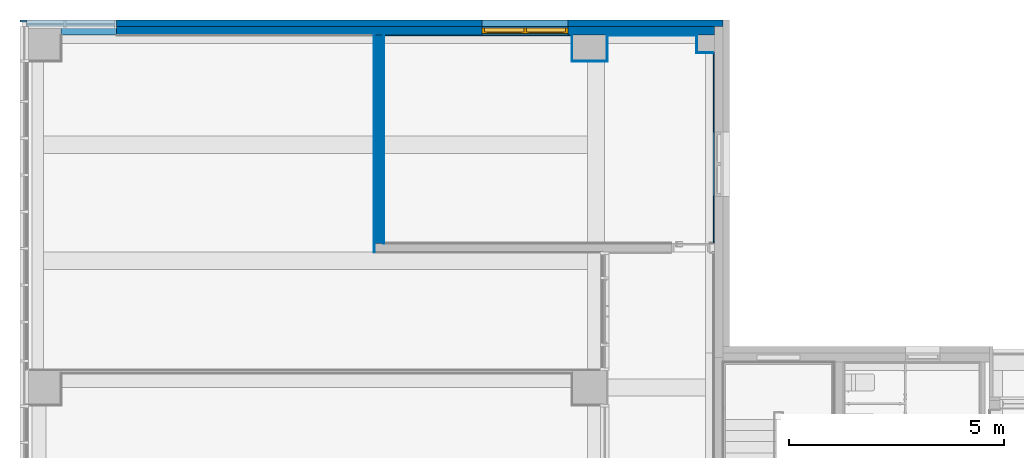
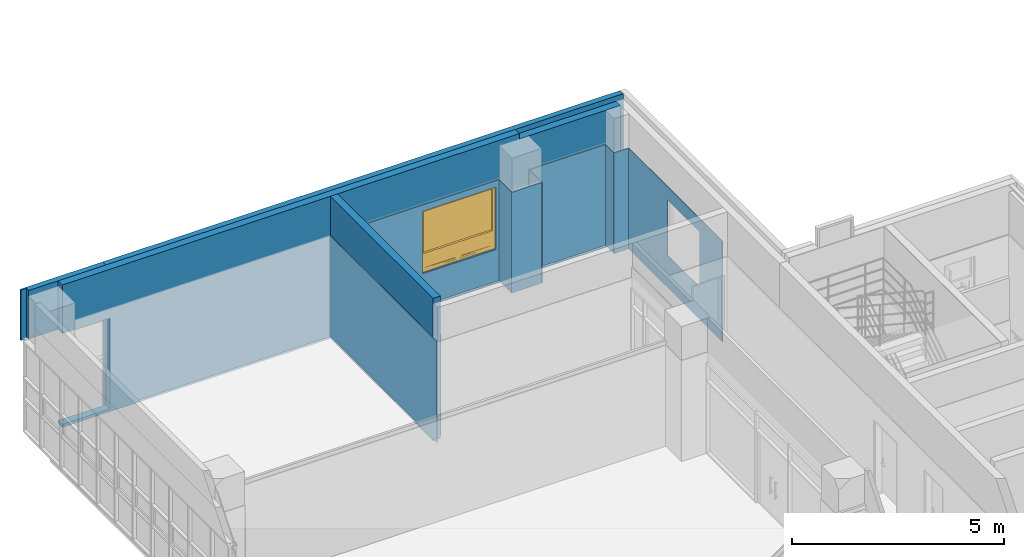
# One storey, part 59 of 76: 15 walls, 1 window, 8 openings.
"""IFC2X3 building model written with IfcOpenShell, lengths in millimetres."""

import ifcopenshell
import ifcopenshell.guid

model = None  # the IFC model being written
_history = None  # IfcOwnerHistory: only IFC2X3 demands one
_inside = {}  # id of a spatial element -> (the spatial element, [elements in it])
_under = {}  # id of a project, library or spatial element -> (it, [spatial elements below it])
_declared = {}  # id of a project -> (the project, [libraries it declares])
_typed = {}  # id of a type object -> (the type object, [elements of that type])
_made_of = {}  # id of a material, layer set ... -> (it, [elements and type objects made of it])


def new_model(schema):
    """Start an empty IFC model of exactly this schema.

    Asked for "IFC4X3", IfcOpenShell would pick the latest addendum, in which some entities
    have other attributes; the version numbers below select the first issue.
    IFC2X3 requires an IfcOwnerHistory on every rooted entity: one is made here for all.
    """
    global model, _history
    if schema == "IFC4X3":
        model = ifcopenshell.file(schema_version=(4, 3, 0, 0))
    else:
        model = ifcopenshell.file(schema=schema)
    _inside.clear()
    _under.clear()
    _declared.clear()
    _typed.clear()
    _made_of.clear()
    _history = None
    if model.schema == "IFC2X3":
        org = make("IfcOrganization", Name="unknown")
        user = make(
            "IfcPersonAndOrganization",
            ThePerson=make("IfcPerson", FamilyName="unknown"),
            TheOrganization=org,
        )
        app = make(
            "IfcApplication",
            ApplicationDeveloper=org,
            Version="unknown",
            ApplicationFullName="unknown",
            ApplicationIdentifier="unknown",
        )
        _history = make(
            "IfcOwnerHistory",
            OwningUser=user,
            OwningApplication=app,
            ChangeAction="ADDED",
            CreationDate=0,
        )
    return model


def make(cls, **values):
    """One entity of the class cls with the attributes given. An attribute that is None is left unset."""
    return model.create_entity(
        cls, **{name: value for name, value in values.items() if value is not None}
    )


def entity(cls, *values):
    """Any entity or typed value of the class cls, its attributes in the order of the schema. None: left unset."""
    e = model.create_entity(cls)
    for i, value in enumerate(values):
        if value is not None:
            e[i] = value
    return e


def rooted(cls, **values):
    """An entity with a GlobalId (a new one), such as an element, a storey or a relation."""
    return make(cls, GlobalId=ifcopenshell.guid.new(), OwnerHistory=_history, **values)


def si_unit(unit_type, name, prefix=None):
    """IfcSIUnit, for example si_unit("LENGTHUNIT", "METRE", prefix="MILLI")."""
    return make("IfcSIUnit", UnitType=unit_type, Prefix=prefix, Name=name)


def converted_unit(unit_type, name, factor, base, dimensions=None, offset=None):
    """IfcConversionBasedUnit, such as the inch: factor (a typed value) times the base unit."""
    return make(
        "IfcConversionBasedUnit"
        if offset is None
        else "IfcConversionBasedUnitWithOffset",
        ConversionOffset=offset,
        Dimensions=None
        if dimensions is None
        else entity("IfcDimensionalExponents", *dimensions),
        UnitType=unit_type,
        Name=name,
        ConversionFactor=make(
            "IfcMeasureWithUnit", ValueComponent=factor, UnitComponent=base
        ),
    )


def derived_unit(unit_type, elements):
    """IfcDerivedUnit: a product of units, each with its exponent."""
    return make(
        "IfcDerivedUnit",
        Elements=[
            make("IfcDerivedUnitElement", Unit=unit, Exponent=power)
            for unit, power in elements
        ],
        UnitType=unit_type,
    )


def assignment(units):
    """IfcUnitAssignment: the units of a project."""
    return None if units is None else make("IfcUnitAssignment", Units=units)


def point(xyz):
    """IfcCartesianPoint."""
    return None if xyz is None else make("IfcCartesianPoint", Coordinates=xyz)


def direction(xyz):
    """IfcDirection."""
    return None if xyz is None else make("IfcDirection", DirectionRatios=xyz)


def frame(location, z_axis=None, x_axis=None):
    """IfcAxis2Placement3D, a coordinate frame: its origin and axes. An axis left out is left unset."""
    return make(
        "IfcAxis2Placement3D",
        Location=point(location),
        Axis=direction(z_axis),
        RefDirection=direction(x_axis),
    )


def frame_2d(location, x_axis=None):
    """IfcAxis2Placement2D, a coordinate frame in the plane: its origin and x axis."""
    return make(
        "IfcAxis2Placement2D", Location=point(location), RefDirection=direction(x_axis)
    )


def origin():
    """The frame at (0, 0, 0) with its axes left unset."""
    return frame((0.0, 0.0, 0.0))


def place(relative_to, where):
    """IfcLocalPlacement: puts the frame where relative to a parent placement (None: the world)."""
    return make(
        "IfcLocalPlacement", PlacementRelTo=relative_to, RelativePlacement=where
    )


def context(
    kind, dimensions, precision=None, world=None, true_north=None, identifier=None
):
    """IfcGeometricRepresentationContext, for example the 3D "Model" context."""
    return make(
        "IfcGeometricRepresentationContext",
        ContextIdentifier=identifier,
        ContextType=kind,
        CoordinateSpaceDimension=dimensions,
        Precision=precision,
        WorldCoordinateSystem=world,
        TrueNorth=true_north,
    )


def subcontext(parent, identifier, kind, view, scale=None):
    """IfcGeometricRepresentationSubContext, for example "Body" below "Model"."""
    return make(
        "IfcGeometricRepresentationSubContext",
        ContextIdentifier=identifier,
        ContextType=kind,
        ParentContext=parent,
        TargetScale=scale,
        TargetView=view,
    )


def project(units=None, contexts=None):
    """IfcProject with its units and contexts."""
    return rooted(
        "IfcProject",
        Name="project",
        RepresentationContexts=contexts,
        UnitsInContext=assignment(units),
    )


def spatial(cls, under=None, at=None, **own):
    """A site, building, storey or space (cls), placed at a placement, below another one or the project."""
    s = rooted(cls, ObjectPlacement=at, **own)
    if under is not None:
        _under.setdefault(under.id(), (under, []))[1].append(s)
    return s


def polyline(points):
    """IfcPolyline through the points."""
    return make("IfcPolyline", Points=[point(p) for p in points])


def profile(cls, at=None, kind="AREA", **sizes):
    """A parametric profile (cls). Its sizes go by their IFC names, for example OverallWidth=200.0."""
    return make(cls, ProfileType=kind, Position=at, **sizes)


def rectangle(**sizes):
    """IfcRectangleProfileDef."""
    return profile("IfcRectangleProfileDef", **sizes)


def extrude(swept, where, along, depth):
    """IfcExtrudedAreaSolid: the profile swept, set in the frame where, extruded along a direction by depth."""
    return make(
        "IfcExtrudedAreaSolid",
        SweptArea=swept,
        Position=where,
        ExtrudedDirection=direction(along),
        Depth=depth,
    )


def clip(a, b, op="DIFFERENCE"):
    """IfcBooleanClippingResult: the solid a cut by the half space b."""
    return make(
        "IfcBooleanClippingResult", Operator=op, FirstOperand=a, SecondOperand=b
    )


def bounded_halfspace(plane, agree, where, boundary):
    """IfcPolygonalBoundedHalfSpace: a half space limited to a polygon's prism."""
    return make(
        "IfcPolygonalBoundedHalfSpace",
        BaseSurface=make("IfcPlane", Position=plane),
        AgreementFlag=agree,
        Position=where,
        PolygonalBoundary=boundary,
    )


def faces_of(points, faces, orient=None, outer=None):
    """IfcFace entities. A face is a list of loops; a loop is a list of indices into points, from 0.

    orient and outer hold one flag for each loop. By default every Orientation is true, the
    first loop of a face is its IfcFaceOuterBound and the others are IfcFaceBound.
    """
    made = []
    for i, loops in enumerate(faces):
        bounds = []
        for j, loop in enumerate(loops):
            is_outer = j == 0 if outer is None else outer[i][j]
            bounds.append(
                make(
                    "IfcFaceOuterBound" if is_outer else "IfcFaceBound",
                    Bound=make("IfcPolyLoop", Polygon=[points[k] for k in loop]),
                    Orientation=True if orient is None else orient[i][j],
                )
            )
        made.append(make("IfcFace", Bounds=bounds))
    return made


def faceted_brep(points, faces, orient=None, outer=None, voids=None):
    """IfcFacetedBrep: a solid bounded by flat faces; with voids (closed shells), ...WithVoids."""
    shared = [point(p) for p in points]
    hull = make("IfcClosedShell", CfsFaces=faces_of(shared, faces, orient, outer))
    if voids is None:
        return make("IfcFacetedBrep", Outer=hull)
    return make(
        "IfcFacetedBrepWithVoids",
        Outer=hull,
        Voids=[
            make(cls, CfsFaces=faces_of(shared, fs, o, b)) for cls, fs, o, b in voids
        ],
    )


def shape(context_of_items, identifier, shape_type, items):
    """IfcShapeRepresentation: the items that make up one representation, for example the "Body"."""
    return make(
        "IfcShapeRepresentation",
        ContextOfItems=context_of_items,
        RepresentationIdentifier=identifier,
        RepresentationType=shape_type,
        Items=items,
    )


def source(mapping_origin, context_of_items, identifier, shape_type, items):
    """IfcRepresentationMap: a shape defined once, which mapped items show again and again."""
    return make(
        "IfcRepresentationMap",
        MappingOrigin=mapping_origin,
        MappedRepresentation=shape(context_of_items, identifier, shape_type, items),
    )


def transform(
    local_origin,
    x_axis=None,
    y_axis=None,
    z_axis=None,
    scale=None,
    scale2=None,
    scale3=None,
    uniform=True,
):
    """IfcCartesianTransformationOperator3D, or its non-uniform kind. x_axis, y_axis, z_axis: its Axis1, 2, 3."""
    if uniform:
        return make(
            "IfcCartesianTransformationOperator3D",
            Axis1=direction(x_axis),
            Axis2=direction(y_axis),
            LocalOrigin=point(local_origin),
            Scale=scale,
            Axis3=direction(z_axis),
        )
    return make(
        "IfcCartesianTransformationOperator3DnonUniform",
        Axis1=direction(x_axis),
        Axis2=direction(y_axis),
        LocalOrigin=point(local_origin),
        Scale=scale,
        Axis3=direction(z_axis),
        Scale2=scale2,
        Scale3=scale3,
    )


def mapped(mapping_source, mapping_target):
    """IfcMappedItem: shows the shape of a source again, moved by a transform."""
    return make(
        "IfcMappedItem", MappingSource=mapping_source, MappingTarget=mapping_target
    )


def material(Name=None, Category=None):
    """IfcMaterial."""
    return make("IfcMaterial", Name=Name, Category=Category)


def material_list(materials):
    """IfcMaterialList."""
    return make("IfcMaterialList", Materials=materials)


def layer(
    of_material, thickness, ventilated=None, Name=None, Category=None, Priority=None
):
    """IfcMaterialLayer: one layer of a wall or slab, of a material (None: an air gap)."""
    return make(
        "IfcMaterialLayer",
        Material=of_material,
        LayerThickness=thickness,
        IsVentilated=ventilated,
        Name=Name,
        Category=Category,
        Priority=Priority,
    )


def layer_set(layers, Name=None):
    """IfcMaterialLayerSet."""
    return make("IfcMaterialLayerSet", MaterialLayers=layers, LayerSetName=Name)


def layer_usage(for_layer_set, set_direction, sense, offset, extent=None):
    """IfcMaterialLayerSetUsage: how a layer set lies in its element."""
    return make(
        "IfcMaterialLayerSetUsage",
        ForLayerSet=for_layer_set,
        LayerSetDirection=set_direction,
        DirectionSense=sense,
        OffsetFromReferenceLine=offset,
        ReferenceExtent=extent,
    )


def made_of(thing, what):
    """Note that an element or type object is made of a material, layer set ...; save() writes the relation."""
    if what is not None:
        _made_of.setdefault(what.id(), (what, []))[1].append(thing)
    return thing


def type_object(cls, material=None, **own):
    """A type object (cls), such as IfcWallType, which elements share."""
    return made_of(rooted(cls, **own), material)


def type_shapes(of_type, sources):
    """Give a type object the sources (RepresentationMaps) that its elements show as mapped items."""
    of_type.RepresentationMaps = sources


def element(
    cls,
    number,
    at=None,
    inside=None,
    cuts=None,
    type_object=None,
    material=None,
    context=None,
    identifier="Body",
    shape_type=None,
    held_by="IfcProductDefinitionShape",
    body=None,
    shapes=None,
    **own,
):
    """One element of the class cls, such as IfcWall. Its Tag is "e" and its number.

    at: its placement. inside: the storey or other place that contains it. cuts: it is an
    opening in that element (IfcRelVoidsElement). A single representation is given by context,
    identifier, shape_type and body (its items); several are given by shapes. held_by: the class
    of the entity that holds the representations. save() writes the other relations.
    """
    e = rooted(cls, Tag="e%d" % number, ObjectPlacement=at, **own)
    if body is not None:
        shapes = [shape(context, identifier, shape_type, body)]
    if shapes is not None:
        e.Representation = make(held_by, Representations=shapes)
    if inside is not None:
        _inside.setdefault(inside.id(), (inside, []))[1].append(e)
    if cuts is not None:
        rooted(
            "IfcRelVoidsElement", RelatingBuildingElement=cuts, RelatedOpeningElement=e
        )
    if type_object is not None:
        _typed.setdefault(type_object.id(), (type_object, []))[1].append(e)
    return made_of(e, material)


def fill(opening, filler):
    """IfcRelFillsElement: the door or window that sits in an opening."""
    return rooted(
        "IfcRelFillsElement",
        RelatingOpeningElement=opening,
        RelatedBuildingElement=filler,
    )


def aggregate(whole, parts):
    """IfcRelAggregates: a whole, such as a stair, and the parts it consists of."""
    return rooted("IfcRelAggregates", RelatingObject=whole, RelatedObjects=parts)


def save(model, path):
    """Write the relations noted so far, then the file.

    IfcRelAggregates (storeys below a building ...), IfcRelContainedInSpatialStructure (elements
    in a storey), IfcRelDefinesByType, IfcRelAssociatesMaterial and IfcRelDeclares: one each for
    every whole, place, type object, material and project.
    """
    for whole, parts in _under.values():
        aggregate(whole, parts)
    for where, things in _inside.values():
        rooted(
            "IfcRelContainedInSpatialStructure",
            RelatedElements=things,
            RelatingStructure=where,
        )
    for kind, things in _typed.values():
        rooted("IfcRelDefinesByType", RelatedObjects=things, RelatingType=kind)
    for what, things in _made_of.values():
        rooted("IfcRelAssociatesMaterial", RelatedObjects=things, RelatingMaterial=what)
    for by, libraries in _declared.values():
        rooted("IfcRelDeclares", RelatingContext=by, RelatedDefinitions=libraries)
    model.write(path)


model = new_model("IFC2X3")

# Units and contexts
model_context = context("Model", 3, precision=0.01, world=origin(), true_north=direction((6.123031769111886e-17, 1.0)))
body_context = subcontext(model_context, "Body", "Model", "MODEL_VIEW")
ifc_project = project(units=[si_unit("LENGTHUNIT", "METRE", prefix="MILLI"), si_unit("AREAUNIT", "SQUARE_METRE"), si_unit("VOLUMEUNIT", "CUBIC_METRE"), converted_unit("PLANEANGLEUNIT", "DEGREE", entity("IfcRatioMeasure", 0.017453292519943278), si_unit("PLANEANGLEUNIT", "RADIAN"), dimensions=[0, 0, 0, 0, 0, 0, 0]), si_unit("MASSUNIT", "GRAM", prefix="KILO"), derived_unit("MASSDENSITYUNIT", [(si_unit("MASSUNIT", "GRAM", prefix="KILO"), 1), (si_unit("LENGTHUNIT", "METRE"), -3)]), derived_unit("MOMENTOFINERTIAUNIT", [(si_unit("LENGTHUNIT", "METRE"), 4)]), si_unit("TIMEUNIT", "SECOND"), si_unit("FREQUENCYUNIT", "HERTZ"), si_unit("THERMODYNAMICTEMPERATUREUNIT", "DEGREE_CELSIUS"), derived_unit("THERMALTRANSMITTANCEUNIT", [(si_unit("MASSUNIT", "GRAM", prefix="KILO"), 1), (si_unit("THERMODYNAMICTEMPERATUREUNIT", "KELVIN"), -1), (si_unit("TIMEUNIT", "SECOND"), -3)]), derived_unit("VOLUMETRICFLOWRATEUNIT", [(si_unit("LENGTHUNIT", "METRE"), 3), (si_unit("TIMEUNIT", "SECOND"), -1)]), derived_unit("MASSFLOWRATEUNIT", [(si_unit("MASSUNIT", "GRAM", prefix="KILO"), 1), (si_unit("TIMEUNIT", "SECOND"), -1)]), derived_unit("ROTATIONALFREQUENCYUNIT", [(si_unit("TIMEUNIT", "SECOND"), -1)]), si_unit("ELECTRICCURRENTUNIT", "AMPERE"), si_unit("ELECTRICVOLTAGEUNIT", "VOLT"), si_unit("POWERUNIT", "WATT"), si_unit("FORCEUNIT", "NEWTON", prefix="KILO"), si_unit("ILLUMINANCEUNIT", "LUX"), si_unit("LUMINOUSFLUXUNIT", "LUMEN"), si_unit("LUMINOUSINTENSITYUNIT", "CANDELA"), derived_unit("USERDEFINED", [(si_unit("MASSUNIT", "GRAM", prefix="KILO"), -1), (si_unit("LENGTHUNIT", "METRE"), -2), (si_unit("TIMEUNIT", "SECOND"), 3), (si_unit("LUMINOUSFLUXUNIT", "LUMEN"), 1)]), derived_unit("SOUNDPOWERUNIT", [(si_unit("MASSUNIT", "GRAM", prefix="KILO"), 1), (si_unit("LENGTHUNIT", "METRE"), 2), (si_unit("TIMEUNIT", "SECOND"), -3)]), derived_unit("SOUNDPRESSUREUNIT", [(si_unit("MASSUNIT", "GRAM", prefix="KILO"), 1), (si_unit("LENGTHUNIT", "METRE"), -1), (si_unit("TIMEUNIT", "SECOND"), -2)]), derived_unit("LINEARVELOCITYUNIT", [(si_unit("LENGTHUNIT", "METRE"), 1), (si_unit("TIMEUNIT", "SECOND"), -1)]), si_unit("PRESSUREUNIT", "PASCAL"), derived_unit("USERDEFINED", [(si_unit("LENGTHUNIT", "METRE"), -2), (si_unit("MASSUNIT", "GRAM", prefix="KILO"), 1), (si_unit("TIMEUNIT", "SECOND"), -2)]), derived_unit("LINEARFORCEUNIT", [(si_unit("MASSUNIT", "GRAM", prefix="KILO"), 1), (si_unit("LENGTHUNIT", "METRE"), 1), (si_unit("TIMEUNIT", "SECOND"), -2), (si_unit("LENGTHUNIT", "METRE"), -1)]), derived_unit("PLANARFORCEUNIT", [(si_unit("MASSUNIT", "GRAM", prefix="KILO"), 1), (si_unit("LENGTHUNIT", "METRE"), 1), (si_unit("TIMEUNIT", "SECOND"), -2), (si_unit("LENGTHUNIT", "METRE"), -2)])], contexts=[model_context])

# Site, building, storey
site_placement = place(None, frame((-14167.972527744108, -657.2125860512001, 0.0)))
site = spatial("IfcSite", under=ifc_project, at=site_placement, Name="Default", CompositionType="ELEMENT")
building_placement = place(site_placement, origin())
building = spatial("IfcBuilding", under=site, at=building_placement, Name="Sample Building", CompositionType="ELEMENT")
storey_placement = place(building_placement, frame((0.0, 0.0, 9300.0)))
storey = spatial("IfcBuildingStorey", under=building, at=storey_placement, Name="지상 3층", CompositionType="ELEMENT", Elevation=9300.000000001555)

# Wall
ifc_material_1 = material(Name="KBIMS-콘크리트")
ifc_layer_1 = layer(ifc_material_1, 200.0)
ifc_layer_set_1 = layer_set([ifc_layer_1], Name="기본 벽:WA111-철근콘크리트구조 벽 200mm_CW1")
ifc_layer_usage_1 = layer_usage(ifc_layer_set_1, "AXIS2", "NEGATIVE", 100.0)
wall_type_1 = type_object("IfcWallType", Name="기본 벽:WA111-철근콘크리트구조 벽 200mm_CW1", PredefinedType="STANDARD", material=ifc_layer_set_1)
wall_1_placement = place(storey_placement, frame((22267.972491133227, 35557.212295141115, 0.0), z_axis=(0.0, 0.0, 1.0), x_axis=(0.0, -1.0, 0.0)))
element("IfcWallStandardCase", 1, at=wall_1_placement, inside=storey, type_object=wall_type_1, material=ifc_layer_usage_1, Name="기본 벽:WA111-철근콘크리트구조 벽 200mm_CW1", ObjectType="기본 벽:WA111-철근콘크리트구조 벽 200mm_CW1", context=body_context, shape_type="SweptSolid", body=[
    extrude(rectangle(XDim=4850.00001989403, YDim=199.99999999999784, at=frame_2d((2425.0000099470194, -4.263256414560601e-14), x_axis=(-1.0, 0.0))), origin(), (0.0, 0.0, 1.0), 4100.000000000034),
])

# Wall, openings, window
ifc_layer_2 = layer(ifc_material_1, 200.0)
ifc_layer_set_2 = layer_set([ifc_layer_2], Name="기본 벽:WA111-철근콘크리트구조 벽 200mm_W1")
ifc_layer_usage_2 = layer_usage(ifc_layer_set_2, "AXIS2", "POSITIVE", -100.0)
wall_type_2 = type_object("IfcWallType", Name="기본 벽:WA111-철근콘크리트구조 벽 200mm_W1", PredefinedType="STANDARD", material=ifc_layer_set_2)
wall_2_placement = place(storey_placement, frame((14867.97245452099, 35657.21229514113, -2.297844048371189e-09)))
wall_2 = element("IfcWallStandardCase", 2, at=wall_2_placement, inside=storey, type_object=wall_type_2, material=ifc_layer_usage_2, Name="기본 벽:WA111-철근콘크리트구조 벽 200mm_W1", ObjectType="기본 벽:WA111-철근콘크리트구조 벽 200mm_W1", context=body_context, shape_type="Clipping", body=[
    clip(clip(extrude(rectangle(XDim=15199.991307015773, YDim=199.99999999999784, at=frame_2d((7599.995653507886, 1.2576606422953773e-12), x_axis=(-1.0, 0.0))), origin(), (0.0, 0.0, 1.0), 4100.000000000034), bounded_halfspace(frame((12450.106694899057, 100.0, 3950.0), z_axis=(0.0, 0.0, -1.0), x_axis=(1.0, 0.0, 0.0)), True, frame((12450.106694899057, 100.0, 3950.0), z_axis=(0.0, 0.0, -1.0), x_axis=(1.0, 0.0, 0.0)), polyline([(0.0, 0.0), (838164.8297731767, 2.5295776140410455e-09), (838164.8297731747, 60960.0), (716239.5416894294, 60960.0), (76162.202470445, 60960.0), (0.0, 60960.0), (0.0, 0.0)]))), bounded_halfspace(frame((12450.106694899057, -100.0, 3950.0), z_axis=(-1.0, 0.0, 0.0), x_axis=(0.0, 0.0, 1.0)), True, frame((12450.106694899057, -100.0, 3950.0), z_axis=(-1.0, 0.0, 0.0), x_axis=(0.0, 0.0, 1.0)), polyline([(0.0, 0.0), (45720.0, 0.0), (45720.0, 60960.0), (0.0, 60960.0), (0.0, 0.0)]))),
])
opening_1_placement = place(wall_2_placement, origin())
element("IfcOpeningElement", 3, at=opening_1_placement, cuts=wall_2, Name="기본 벽:WA111-철근콘크리트구조 벽 200mm_W1", ObjectType="Opening", context=body_context, shape_type="SweptSolid", body=[
    extrude(rectangle(XDim=2620.000000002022, YDim=2099.3672003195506, at=frame_2d((-5.684341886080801e-13, -1.0231815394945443e-12), x_axis=(1.0, 0.0))), frame((249.68360015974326, -252.3999999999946, 1390.0), z_axis=(0.0, 1.0, 0.0), x_axis=(0.0, 0.0, 1.0)), (0.0, 0.0, 1.0), 504.79999999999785),
])
opening_2_placement = place(wall_2_placement, frame((11800.008809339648, 100.0, 1000.0)))
opening_2 = element("IfcOpeningElement", 4, at=opening_2_placement, cuts=wall_2, Name="WD842-2단 하부 더블 프로젝트 창(스테인리스 스틸):WD842-2단 하부 더블 프로젝트 창(스테인리스 스틸)_2000x1800mm:1", ObjectType="Opening", context=body_context, shape_type="SweptSolid", body=[
    extrude(rectangle(XDim=1799.9999999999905, YDim=1999.9999999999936, at=frame_2d((899.9999999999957, 999.9999999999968), x_axis=(1.0, 0.0))), frame((0.0, 0.0, 0.0), z_axis=(0.0, -1.0, 0.0), x_axis=(0.0, 0.0, 1.0)), (0.0, 0.0, 1.0), 200.0),
])
ifc_material_2 = material(Name="KBIMS-스테인리스 스틸_도금")
ifc_material_3 = material(Name="KBIMS-유리")
ifc_material_list_1 = material_list([ifc_material_2, ifc_material_3])
ifc_material_list_2 = material_list([ifc_material_2, ifc_material_3, ifc_material_2, ifc_material_3, ifc_material_2, ifc_material_2, ifc_material_3])
window_style = type_object("IfcWindowStyle", Name="WD842-2단 하부 더블 프로젝트 창(스테인리스 스틸):WD842-2단 하부 더블 프로젝트 창(스테인리스 스틸)_2000x1800mm", ConstructionType="NOTDEFINED", OperationType="NOTDEFINED", ParameterTakesPrecedence=False, Sizeable=False, material=ifc_material_list_2)
shared_shape = source(origin(), body_context, "Body", "Brep", [
    faceted_brep([(60.0, 37.49999999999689, 470.0), (60.0, 162.4999999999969, 470.0), (970.0, 162.4999999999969, 470.0), (970.0, 37.49999999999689, 470.0), (0.0, 162.4999999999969, 530.0), (0.0, 37.49999999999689, 530.0), (60.0, 37.49999999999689, 530.0), (1940.0, 37.49999999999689, 530.0), (2000.0, 37.49999999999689, 530.0), (2000.0, 162.4999999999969, 530.0), (1940.0, 162.4999999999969, 530.0), (60.0, 162.4999999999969, 530.0), (1940.0, 37.49999999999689, 470.0), (1940.0, 162.4999999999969, 470.0), (1940.0, 162.4999999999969, 60.0), (1940.0, 37.49999999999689, 60.0), (2000.0, 37.49999999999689, 0.0), (2000.0, 162.4999999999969, 0.0), (1030.0, 162.4999999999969, 60.0), (1030.0, 37.49999999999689, 60.0), (0.0, 37.49999999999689, 0.0), (0.0, 162.4999999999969, 0.0), (60.0, 37.49999999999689, 60.0), (60.0, 162.4999999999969, 60.0), (1030.0, 37.49999999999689, 470.0), (970.0, 37.49999999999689, 60.0), (1030.0, 162.4999999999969, 470.0), (970.0, 162.4999999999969, 60.0)], [[[0, 1, 2, 3]], [[4, 5, 6, 7, 8, 9, 10, 11]], [[12, 13, 14, 15]], [[9, 8, 16, 17]], [[15, 14, 18, 19]], [[17, 16, 20, 21]], [[1, 0, 22, 23]], [[8, 7, 6, 5, 20, 16], [12, 15, 19, 24], [0, 3, 25, 22]], [[5, 4, 21, 20]], [[14, 13, 26, 18], [23, 27, 2, 1], [4, 11, 10, 9, 17, 21]], [[18, 26, 24, 19]], [[2, 27, 25, 3]], [[23, 22, 25, 27]], [[13, 12, 24, 26]]], outer=[[True], [True], [True], [True], [True], [True], [True], [True, False, False], [True], [False, False, True], [True], [True], [True], [True]]),
    faceted_brep([(930.0, 151.0, 430.0), (930.0, 139.0, 430.0), (930.0, 139.0, 100.0), (930.0, 151.0, 100.0), (100.0, 139.0, 430.0), (100.0, 139.0, 100.0), (100.0, 151.0, 430.0), (100.0, 151.0, 100.0)], [[[0, 1, 2, 3]], [[1, 4, 5, 2]], [[4, 6, 7, 5]], [[0, 6, 4, 1]], [[3, 2, 5, 7]], [[6, 0, 3, 7]]]),
    faceted_brep([(110.0, 151.0, 420.0), (110.0, 160.0, 420.0), (920.0, 160.0, 420.0), (920.0, 151.0, 420.0), (100.0, 139.0, 430.0), (100.0, 151.0, 430.0), (930.0, 151.0, 430.0), (930.0, 139.0, 430.0), (110.0, 130.0, 420.0), (110.0, 139.0, 420.0), (920.0, 139.0, 420.0), (920.0, 130.0, 420.0), (60.0, 160.0, 470.0), (60.0, 130.0, 470.0), (970.0, 130.0, 470.0), (970.0, 160.0, 470.0), (920.0, 160.0, 110.0), (920.0, 151.0, 110.0), (930.0, 151.0, 100.0), (930.0, 139.0, 100.0), (920.0, 139.0, 110.0), (920.0, 130.0, 110.0), (970.0, 130.0, 60.0), (970.0, 160.0, 60.0), (110.0, 160.0, 110.0), (110.0, 151.0, 110.0), (100.0, 151.0, 100.0), (100.0, 139.0, 100.0), (110.0, 139.0, 110.0), (110.0, 130.0, 110.0), (60.0, 130.0, 60.0), (60.0, 160.0, 60.0)], [[[0, 1, 2, 3]], [[4, 5, 6, 7]], [[8, 9, 10, 11]], [[12, 13, 14, 15]], [[3, 2, 16, 17]], [[7, 6, 18, 19]], [[11, 10, 20, 21]], [[15, 14, 22, 23]], [[17, 16, 24, 25]], [[19, 18, 26, 27]], [[21, 20, 28, 29]], [[23, 22, 30, 31]], [[25, 24, 1, 0]], [[3, 17, 25, 0], [5, 26, 18, 6]], [[27, 26, 5, 4]], [[7, 19, 27, 4], [9, 28, 20, 10]], [[29, 28, 9, 8]], [[11, 21, 29, 8], [13, 30, 22, 14]], [[31, 30, 13, 12]], [[1, 24, 16, 2], [15, 23, 31, 12]]], outer=[[True], [True], [True], [True], [True], [True], [True], [True], [True], [True], [True], [True], [True], [False, True], [True], [True, False], [True], [False, True], [True], [False, True]]),
    faceted_brep([(1900.0, 151.0, 430.0), (1070.0, 151.0, 430.0), (1070.0, 139.0, 430.0), (1900.0, 139.0, 430.0), (1900.0, 151.0, 100.0), (1900.0, 139.0, 100.0), (1070.0, 139.0, 100.0), (1070.0, 151.0, 100.0)], [[[0, 1, 2, 3]], [[4, 5, 6, 7]], [[1, 0, 4, 7]], [[2, 1, 7, 6]], [[3, 2, 6, 5]], [[0, 3, 5, 4]]]),
    faceted_brep([(1070.0, 139.0, 100.0), (1070.0, 151.0, 100.0), (1070.0, 151.0, 430.0), (1070.0, 139.0, 430.0), (1890.0, 151.0, 420.0), (1890.0, 151.0, 110.0), (1080.0, 151.0, 110.0), (1080.0, 151.0, 420.0), (1900.0, 151.0, 100.0), (1900.0, 151.0, 430.0), (1080.0, 160.0, 110.0), (1080.0, 160.0, 420.0), (1890.0, 160.0, 420.0), (1890.0, 160.0, 110.0), (1900.0, 139.0, 430.0), (1900.0, 139.0, 100.0), (1890.0, 130.0, 420.0), (1890.0, 139.0, 420.0), (1890.0, 139.0, 110.0), (1890.0, 130.0, 110.0), (1080.0, 130.0, 420.0), (1080.0, 139.0, 420.0), (1030.0, 160.0, 470.0), (1030.0, 130.0, 470.0), (1940.0, 130.0, 470.0), (1940.0, 160.0, 470.0), (1940.0, 130.0, 60.0), (1940.0, 160.0, 60.0), (1080.0, 139.0, 110.0), (1080.0, 130.0, 110.0), (1030.0, 130.0, 60.0), (1030.0, 160.0, 60.0)], [[[0, 1, 2, 3]], [[4, 5, 6, 7], [2, 1, 8, 9]], [[6, 10, 11, 7]], [[4, 12, 13, 5]], [[14, 9, 8, 15]], [[16, 17, 18, 19]], [[7, 11, 12, 4]], [[3, 2, 9, 14]], [[20, 21, 17, 16]], [[22, 23, 24, 25]], [[25, 24, 26, 27]], [[5, 13, 10, 6]], [[15, 8, 1, 0]], [[19, 18, 28, 29]], [[27, 26, 30, 31]], [[14, 15, 0, 3], [21, 28, 18, 17]], [[29, 28, 21, 20]], [[16, 19, 29, 20], [23, 30, 26, 24]], [[31, 30, 23, 22]], [[11, 10, 13, 12], [25, 27, 31, 22]]], outer=[[True], [False, True], [True], [True], [True], [True], [True], [True], [True], [True], [True], [True], [True], [True], [True], [True, False], [True], [False, True], [True], [False, True]]),
    faceted_brep([(60.0, 37.50000000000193, 1740.0), (60.0, 162.50000000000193, 1740.0), (1940.0, 162.50000000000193, 1740.0), (1940.0, 37.50000000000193, 1740.0), (0.0, 162.50000000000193, 1800.0), (0.0, 37.50000000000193, 1800.0), (2000.0, 37.50000000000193, 1800.0), (2000.0, 162.50000000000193, 1800.0), (1940.0, 162.50000000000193, 530.0), (1940.0, 37.50000000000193, 530.0), (2000.0, 37.50000000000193, 530.0), (2000.0, 162.50000000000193, 530.0), (60.0, 37.50000000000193, 530.0), (60.0, 162.50000000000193, 530.0), (0.0, 37.50000000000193, 530.0), (0.0, 162.50000000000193, 530.0)], [[[0, 1, 2, 3]], [[4, 5, 6, 7]], [[3, 2, 8, 9]], [[7, 6, 10, 11]], [[1, 0, 12, 13]], [[0, 3, 9, 10, 6, 5, 14, 12]], [[5, 4, 15, 14]], [[2, 1, 13, 15, 4, 7, 11, 8]], [[13, 12, 14, 15]], [[9, 8, 11, 10]]]),
    faceted_brep([(1940.0, 106.0, 1740.0), (60.0, 106.0, 1740.0), (60.0, 94.0, 1740.0), (1940.0, 94.0, 1740.0), (1940.0, 106.0, 530.0), (60.0, 106.0, 530.0), (60.0, 94.0, 530.0), (1940.0, 94.0, 530.0)], [[[0, 1, 2, 3]], [[1, 0, 4, 5]], [[2, 1, 5, 6]], [[3, 2, 6, 7]], [[0, 3, 7, 4]], [[5, 4, 7, 6]]]),
])
type_shapes(window_style, [shared_shape])
window_placement = place(opening_2_placement, frame((0.0, 0.0, 2.2973836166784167e-09), z_axis=(0.0, 0.0, 1.0), x_axis=(-1.0, 0.0, 0.0)))
window = element("IfcWindow", 5, at=window_placement, inside=storey, type_object=window_style, material=ifc_material_list_1, Name="WD842-2단 하부 더블 프로젝트 창(스테인리스 스틸):WD842-2단 하부 더블 프로젝트 창(스테인리스 스틸)_2000x1800mm", ObjectType="WD842-2단 하부 더블 프로젝트 창(스테인리스 스틸):WD842-2단 하부 더블 프로젝트 창(스테인리스 스틸)_2000x1800mm", OverallHeight=1799.9999999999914, OverallWidth=1999.999999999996, context=body_context, shape_type="MappedRepresentation", body=[
    mapped(shared_shape, transform((0.0, 0.0, 0.0), scale=1.0)),
])
fill(opening_2, window)

# Wall, opening
ifc_material_4 = material(Name="WA240-ALC블록벽")
ifc_layer_3 = layer(ifc_material_4, 35.0)
ifc_material_5 = material(Name="WA795-(STEEL)BRACKET")
ifc_layer_4 = layer(ifc_material_5, 65.0)
ifc_material_6 = material(Name="WA821-압출스티로폼 벽 (본드붙임, 비중0.03) 50mm")
ifc_layer_5 = layer(ifc_material_6, 50.0)
ifc_layer_set_3 = layer_set([ifc_layer_3, ifc_layer_4, ifc_layer_5], Name="기본 벽:A2-22-02A-압출스티로폼, BRACKET(STEEL), ALC블록 (150mm)")
ifc_layer_usage_3 = layer_usage(ifc_layer_set_3, "AXIS2", "POSITIVE", -75.0)
wall_type_3 = type_object("IfcWallType", Name="기본 벽:A2-22-02A-압출스티로폼, BRACKET(STEEL), ALC블록 (150mm)", PredefinedType="STANDARD", material=ifc_layer_set_3)
wall_3_placement = place(storey_placement, frame((30267.963761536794, 35832.21229514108, -2.297844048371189e-09), z_axis=(0.0, 0.0, 1.0), x_axis=(-1.0, 0.0, 0.0)))
wall_3 = element("IfcWallStandardCase", 6, at=wall_3_placement, inside=storey, type_object=wall_type_3, material=ifc_layer_usage_3, Name="기본 벽:A2-22-02A-압출스티로폼, BRACKET(STEEL), ALC블록 (150mm)", ObjectType="기본 벽:A2-22-02A-압출스티로폼, BRACKET(STEEL), ALC블록 (150mm)", context=body_context, shape_type="SweptSolid", body=[
    extrude(rectangle(XDim=150.00000000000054, YDim=14100.624106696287, at=frame_2d((2.1671553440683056e-12, 2.2737367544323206e-12), x_axis=(1.0, 0.0))), frame((7050.312053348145, 0.0, 0.0), z_axis=(0.0, 0.0, 1.0), x_axis=(0.0, 1.0, 0.0)), (0.0, 0.0, 1.0), 4099.999999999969),
])
opening_3_placement = place(storey_placement, frame((30267.963761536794, 35832.21229514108, -2.297844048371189e-09), z_axis=(0.0, 0.0, 1.0), x_axis=(-1.0, 0.0, 0.0)))
element("IfcOpeningElement", 7, at=opening_3_placement, cuts=wall_3, Name="기본 벽:A2-22-02A-압출스티로폼, BRACKET(STEEL), ALC블록 (150mm):1", ObjectType="Opening", context=body_context, shape_type="SweptSolid", body=[
    extrude(rectangle(XDim=1799.9999999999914, YDim=1999.9999999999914, at=frame_2d((2.2168933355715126e-12, -1.0800249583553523e-12), x_axis=(0.0, 1.0))), frame((4599.982497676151, 75.0, 1900.0), z_axis=(0.0, -1.0, 0.0), x_axis=(1.0, 0.0, 0.0)), (0.0, 0.0, 1.0), 150.00000000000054),
])

ifc_material_7 = material(Name="WA785-금속외장패널")
ifc_layer_6 = layer(ifc_material_7, 25.0)
ifc_material_8 = material(Name="WA793-금속 긴결철물 벽")
ifc_layer_7 = layer(ifc_material_8, 75.0)
ifc_layer_8 = layer(ifc_material_6, 50.0)
ifc_layer_set_4 = layer_set([ifc_layer_6, ifc_layer_7, ifc_layer_8], Name="기본 벽:A2-26-01A-압출스티로폼, 금속 긴결철물, 금속외장패널 (150mm)")
ifc_layer_usage_4 = layer_usage(ifc_layer_set_4, "AXIS2", "NEGATIVE", 75.0)
wall_type_4 = type_object("IfcWallType", Name="기본 벽:A2-26-01A-압출스티로폼, 금속 긴결철물, 금속외장패널 (150mm)", PredefinedType="STANDARD", material=ifc_layer_set_4)
wall_4_placement = place(storey_placement, frame((14067.955105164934, 35832.21229514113, 2700.0)))
wall_4 = element("IfcWallStandardCase", 8, at=wall_4_placement, inside=storey, type_object=wall_type_4, material=ifc_layer_usage_4, Name="기본 벽:A2-26-01A-압출스티로폼, 금속 긴결철물, 금속외장패널 (150mm)", ObjectType="기본 벽:A2-26-01A-압출스티로폼, 금속 긴결철물, 금속외장패널 (150mm)", context=body_context, shape_type="SweptSolid", body=[
    extrude(rectangle(XDim=2099.3845496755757, YDim=150.00000000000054, at=frame_2d((1049.6922748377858, -2.913225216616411e-13), x_axis=(1.0, 0.0))), origin(), (0.0, 0.0, 1.0), 1400.0000000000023),
])
opening_4_placement = place(wall_4_placement, origin())
element("IfcOpeningElement", 9, at=opening_4_placement, cuts=wall_4, Name="기본 벽:A2-26-01A-압출스티로폼, 금속 긴결철물, 금속외장패널 (150mm)", ObjectType="Opening", context=body_context, shape_type="SweptSolid", body=[
    extrude(rectangle(XDim=2620.000000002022, YDim=2099.367200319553, at=frame_2d((-5.684341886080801e-13, 0.0), x_axis=(1.0, 0.0))), frame((1049.7009495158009, -227.4000000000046, -1310.0), z_axis=(0.0, 1.0, 0.0), x_axis=(0.0, 0.0, 1.0)), (0.0, 0.0, 1.0), 454.8000000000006),
])

ifc_layer_usage_5 = layer_usage(ifc_layer_set_4, "AXIS2", "POSITIVE", -75.0)
wall_5_placement = place(storey_placement, frame((13992.955105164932, 35907.21229514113, 2650.0), z_axis=(0.0, 0.0, 1.0), x_axis=(0.0, -1.0, 0.0)))
wall_5 = element("IfcWallStandardCase", 10, at=wall_5_placement, inside=storey, type_object=wall_type_4, material=ifc_layer_usage_5, Name="기본 벽:A2-26-01A-압출스티로폼, 금속 긴결철물, 금속외장패널 (150mm)", ObjectType="기본 벽:A2-26-01A-압출스티로폼, 금속 긴결철물, 금속외장패널 (150mm)", context=body_context, shape_type="SweptSolid", body=[
    extrude(rectangle(XDim=150.00000000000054, YDim=49.73910289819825, at=frame_2d((24.869551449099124, 0.0), x_axis=(0.0, 1.0))), origin(), (0.0, 0.0, 1.0), 1450.000000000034),
])
opening_5_placement = place(wall_5_placement, origin())
element("IfcOpeningElement", 11, at=opening_5_placement, cuts=wall_5, Name="기본 벽:A2-26-01A-압출스티로폼, 금속 긴결철물, 금속외장패널 (150mm)", ObjectType="Opening", context=body_context, shape_type="SweptSolid", body=[
    extrude(rectangle(XDim=2620.000000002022, YDim=35399.99999999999, at=frame_2d((-5.684341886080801e-13, 0.0), x_axis=(1.0, 0.0))), frame((17749.739102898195, -227.4000000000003, -1260.0), z_axis=(0.0, 1.0, 0.0), x_axis=(0.0, 0.0, 1.0)), (0.0, 0.0, 1.0), 454.8000000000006),
])

# Wall
ifc_material_9 = material(Name="WA611-수성페인트 (내부) 벽 (3회)")
ifc_layer_9 = layer(ifc_material_9, 1.0)
ifc_material_10 = material(Name="WA551-시멘트모르타르 (내부) 벽 18mm")
ifc_layer_10 = layer(ifc_material_10, 16.0)
ifc_material_11 = material(Name="WA555-콘크리트면정리 벽 (내부)")
ifc_layer_11 = layer(ifc_material_11, 1.0)
ifc_layer_set_5 = layer_set([ifc_layer_9, ifc_layer_10, ifc_layer_11], Name="기본 벽:A1-32-06A-콘크리트면정리, 시멘트모르타르(미장용), 수성페인트(내부) (18mm)")
ifc_layer_usage_6 = layer_usage(ifc_layer_set_5, "AXIS2", "NEGATIVE", 9.000000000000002)
wall_type_5 = type_object("IfcWallType", Name="기본 벽:A1-32-06A-콘크리트면정리, 시멘트모르타르(미장용), 수성페인트(내부) (18mm)", PredefinedType="STANDARD", material=ifc_layer_set_5)
wall_6_placement = place(storey_placement, frame((22376.97249113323, 35557.21229514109, 80.0), z_axis=(0.0, 0.0, 1.0), x_axis=(0.0, -1.0, 0.0)))
element("IfcWallStandardCase", 12, at=wall_6_placement, inside=storey, type_object=wall_type_5, material=ifc_layer_usage_6, Name="기본 벽:A1-32-06A-콘크리트면정리, 시멘트모르타르(미장용), 수성페인트(내부) (18mm)", ObjectType="기본 벽:A1-32-06A-콘크리트면정리, 시멘트모르타르(미장용), 수성페인트(내부) (18mm)", context=body_context, shape_type="SweptSolid", body=[
    extrude(rectangle(XDim=4850.000019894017, YDim=18.000000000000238, at=frame_2d((2425.0000099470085, -1.5569767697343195e-12), x_axis=(-1.0, 0.0))), origin(), (0.0, 0.0, 1.0), 2899.999999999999),
])

# Wall, opening
ifc_layer_usage_7 = layer_usage(ifc_layer_set_5, "AXIS2", "NEGATIVE", 9.000000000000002)
wall_7_placement = place(storey_placement, frame((30058.96376153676, 30725.212275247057, 80.0), z_axis=(0.0, 0.0, 1.0), x_axis=(0.0, 1.0, 0.0)))
wall_7 = element("IfcWallStandardCase", 13, at=wall_7_placement, inside=storey, type_object=wall_type_5, material=ifc_layer_usage_7, Name="기본 벽:A1-32-06A-콘크리트면정리, 시멘트모르타르(미장용), 수성페인트(내부) (18mm)", ObjectType="기본 벽:A1-32-06A-콘크리트면정리, 시멘트모르타르(미장용), 수성페인트(내부) (18mm)", context=body_context, shape_type="SweptSolid", body=[
    extrude(rectangle(XDim=4432.000032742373, YDim=18.00000000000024, at=frame_2d((2216.0000163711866, -2.1662671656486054e-12), x_axis=(-1.0, 0.0))), origin(), (0.0, 0.0, 1.0), 2899.999999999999),
])
opening_6_placement = place(wall_7_placement, origin())
element("IfcOpeningElement", 14, at=opening_6_placement, cuts=wall_7, Name="기본 벽:A1-32-06A-콘크리트면정리, 시멘트모르타르(미장용), 수성페인트(내부) (18mm)", ObjectType="Opening", context=body_context, shape_type="SweptSolid", body=[
    extrude(rectangle(XDim=1600.0000000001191, YDim=1499.9999999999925, at=frame_2d((2.1600499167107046e-12, -1.0800249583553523e-12), x_axis=(0.0, 1.0))), frame((1832.0000198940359, -1733.0, 1720.0), z_axis=(0.0, 1.0, 0.0), x_axis=(-1.0, 0.0, 0.0)), (0.0, 0.0, 1.0), 3048.0),
])

# Walls
ifc_layer_usage_8 = layer_usage(ifc_layer_set_5, "AXIS2", "NEGATIVE", 9.000000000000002)
wall_8_placement = place(storey_placement, frame((30049.96376153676, 35148.21230798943, 80.0), z_axis=(0.0, 0.0, 1.0), x_axis=(-1.0, 0.0, 0.0)))
element("IfcWallStandardCase", 15, at=wall_8_placement, inside=storey, type_object=wall_type_5, material=ifc_layer_usage_8, Name="기본 벽:A1-32-06A-콘크리트면정리, 시멘트모르타르(미장용), 수성페인트(내부) (18mm)", ObjectType="기본 벽:A1-32-06A-콘크리트면정리, 시멘트모르타르(미장용), 수성페인트(내부) (18mm)", context=body_context, shape_type="SweptSolid", body=[
    extrude(rectangle(XDim=400.01734935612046, YDim=18.00000000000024, at=frame_2d((200.00867467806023, -2.1662671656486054e-12), x_axis=(-1.0, 0.0))), origin(), (0.0, 0.0, 1.0), 2899.999999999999),
])
ifc_layer_usage_9 = layer_usage(ifc_layer_set_5, "AXIS2", "NEGATIVE", 9.000000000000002)
wall_9_placement = place(storey_placement, frame((29658.94641218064, 35157.21230798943, 80.0), z_axis=(0.0, 0.0, 1.0), x_axis=(0.0, 1.0, 0.0)))
element("IfcWallStandardCase", 16, at=wall_9_placement, inside=storey, type_object=wall_type_5, material=ifc_layer_usage_9, Name="기본 벽:A1-32-06A-콘크리트면정리, 시멘트모르타르(미장용), 수성페인트(내부) (18mm)", ObjectType="기본 벽:A1-32-06A-콘크리트면정리, 시멘트모르타르(미장용), 수성페인트(내부) (18mm)", context=body_context, shape_type="SweptSolid", body=[
    extrude(rectangle(XDim=399.99998715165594, YDim=18.00000000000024, at=frame_2d((199.99999357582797, -2.1662671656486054e-12), x_axis=(-1.0, 0.0))), origin(), (0.0, 0.0, 1.0), 2899.999999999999),
])
ifc_layer_usage_10 = layer_usage(ifc_layer_set_5, "AXIS2", "NEGATIVE", 9.000000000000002)
wall_10_placement = place(storey_placement, frame((29649.94641218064, 35548.212295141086, 80.0), z_axis=(0.0, 0.0, 1.0), x_axis=(-1.0, 0.0, 0.0)))
element("IfcWallStandardCase", 17, at=wall_10_placement, inside=storey, type_object=wall_type_5, material=ifc_layer_usage_10, Name="기본 벽:A1-32-06A-콘크리트면정리, 시멘트모르타르(미장용), 수성페인트(내부) (18mm)", ObjectType="기본 벽:A1-32-06A-콘크리트면정리, 시멘트모르타르(미장용), 수성페인트(내부) (18mm)", context=body_context, shape_type="SweptSolid", body=[
    extrude(rectangle(XDim=2081.9912704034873, YDim=18.00000000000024, at=frame_2d((1040.9956352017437, -2.1662671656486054e-12), x_axis=(-1.0, 0.0))), origin(), (0.0, 0.0, 1.0), 2899.999999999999),
])
ifc_layer_usage_11 = layer_usage(ifc_layer_set_5, "AXIS2", "NEGATIVE", 9.000000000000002)
wall_11_placement = place(storey_placement, frame((27576.955141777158, 35539.212295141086, 80.0), z_axis=(0.0, 0.0, 1.0), x_axis=(0.0, -1.0, 0.0)))
element("IfcWallStandardCase", 18, at=wall_11_placement, inside=storey, type_object=wall_type_5, material=ifc_layer_usage_11, Name="기본 벽:A1-32-06A-콘크리트면정리, 시멘트모르타르(미장용), 수성페인트(내부) (18mm)", ObjectType="기본 벽:A1-32-06A-콘크리트면정리, 시멘트모르타르(미장용), 수성페인트(내부) (18mm)", context=body_context, shape_type="SweptSolid", body=[
    extrude(rectangle(XDim=600.0000145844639, YDim=18.00000000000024, at=frame_2d((300.00000729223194, -2.1662671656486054e-12), x_axis=(-1.0, 0.0))), origin(), (0.0, 0.0, 1.0), 2899.999999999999),
])
ifc_layer_usage_12 = layer_usage(ifc_layer_set_5, "AXIS2", "NEGATIVE", 9.000000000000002)
wall_12_placement = place(storey_placement, frame((27567.955141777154, 34948.21228055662, 80.0), z_axis=(0.0, 0.0, 1.0), x_axis=(-1.0, 0.0, 0.0)))
element("IfcWallStandardCase", 19, at=wall_12_placement, inside=storey, type_object=wall_type_5, material=ifc_layer_usage_12, Name="기본 벽:A1-32-06A-콘크리트면정리, 시멘트모르타르(미장용), 수성페인트(내부) (18mm)", ObjectType="기본 벽:A1-32-06A-콘크리트면정리, 시멘트모르타르(미장용), 수성페인트(내부) (18mm)", context=body_context, shape_type="SweptSolid", body=[
    extrude(rectangle(XDim=818.0000000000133, YDim=18.00000000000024, at=frame_2d((409.00000000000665, -2.1662671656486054e-12), x_axis=(-1.0, 0.0))), origin(), (0.0, 0.0, 1.0), 2899.999999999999),
])
ifc_layer_usage_13 = layer_usage(ifc_layer_set_5, "AXIS2", "NEGATIVE", 9.000000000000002)
wall_13_placement = place(storey_placement, frame((26758.95514177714, 34957.212280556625, 80.0), z_axis=(0.0, 0.0, 1.0), x_axis=(0.0, 1.0, 0.0)))
element("IfcWallStandardCase", 20, at=wall_13_placement, inside=storey, type_object=wall_type_5, material=ifc_layer_usage_13, Name="기본 벽:A1-32-06A-콘크리트면정리, 시멘트모르타르(미장용), 수성페인트(내부) (18mm)", ObjectType="기본 벽:A1-32-06A-콘크리트면정리, 시멘트모르타르(미장용), 수성페인트(내부) (18mm)", context=body_context, shape_type="SweptSolid", body=[
    extrude(rectangle(XDim=600.0000145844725, YDim=18.00000000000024, at=frame_2d((300.00000729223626, -2.1662671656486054e-12), x_axis=(-1.0, 0.0))), origin(), (0.0, 0.0, 1.0), 2899.999999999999),
])

# Wall, openings
ifc_layer_usage_14 = layer_usage(ifc_layer_set_5, "AXIS2", "NEGATIVE", 9.000000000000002)
wall_14_placement = place(storey_placement, frame((26749.95514177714, 35548.21229514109, 80.0), z_axis=(0.0, 0.0, 1.0), x_axis=(-1.0, 0.0, 0.0)))
wall_14 = element("IfcWallStandardCase", 21, at=wall_14_placement, inside=storey, type_object=wall_type_5, material=ifc_layer_usage_14, Name="기본 벽:A1-32-06A-콘크리트면정리, 시멘트모르타르(미장용), 수성페인트(내부) (18mm)", ObjectType="기본 벽:A1-32-06A-콘크리트면정리, 시멘트모르타르(미장용), 수성페인트(내부) (18mm)", context=body_context, shape_type="SweptSolid", body=[
    extrude(rectangle(XDim=4363.982650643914, YDim=18.00000000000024, at=frame_2d((2181.991325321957, -2.1662671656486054e-12), x_axis=(-1.0, 0.0))), origin(), (0.0, 0.0, 1.0), 2899.999999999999),
])
opening_7_placement = place(wall_14_placement, origin())
element("IfcOpeningElement", 22, at=opening_7_placement, cuts=wall_14, Name="기본 벽:A1-32-06A-콘크리트면정리, 시멘트모르타르(미장용), 수성페인트(내부) (18mm)", ObjectType="Opening", context=body_context, shape_type="SweptSolid", body=[
    extrude(rectangle(XDim=2620.000000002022, YDim=2099.3672003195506, at=frame_2d((1.0231815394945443e-12, -5.684341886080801e-13), x_axis=(0.0, 1.0))), frame((11632.29908709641, -161.40000000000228, 1310.0), z_axis=(0.0, 1.0, 0.0), x_axis=(-1.0, 0.0, 0.0)), (0.0, 0.0, 1.0), 322.80000000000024),
])
opening_8_placement = place(wall_14_placement, origin())
element("IfcOpeningElement", 23, at=opening_8_placement, cuts=wall_14, Name="기본 벽:A1-32-06A-콘크리트면정리, 시멘트모르타르(미장용), 수성페인트(내부) (18mm)", ObjectType="Opening", context=body_context, shape_type="SweptSolid", body=[
    extrude(rectangle(XDim=1799.9999999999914, YDim=1999.9999999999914, at=frame_2d((-1.0800249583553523e-12, 2.2168933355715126e-12), x_axis=(1.0, 0.0))), frame((1081.973877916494, -1733.0, 1820.0), z_axis=(0.0, 1.0, 0.0), x_axis=(0.0, 0.0, 1.0)), (0.0, 0.0, 1.0), 3048.0),
])

# Wall
ifc_layer_usage_15 = layer_usage(ifc_layer_set_5, "AXIS2", "NEGATIVE", 9.000000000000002)
wall_15_placement = place(storey_placement, frame((22158.972491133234, 30507.212275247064, 80.0), z_axis=(0.0, 0.0, 1.0), x_axis=(0.0, 1.0, 0.0)))
element("IfcWallStandardCase", 24, at=wall_15_placement, inside=storey, type_object=wall_type_5, material=ifc_layer_usage_15, Name="기본 벽:A1-32-06A-콘크리트면정리, 시멘트모르타르(미장용), 수성페인트(내부) (18mm)", ObjectType="기본 벽:A1-32-06A-콘크리트면정리, 시멘트모르타르(미장용), 수성페인트(내부) (18mm)", context=body_context, shape_type="SweptSolid", body=[
    extrude(rectangle(XDim=5050.000019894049, YDim=18.00000000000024, at=frame_2d((2525.0000099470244, -2.1662671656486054e-12), x_axis=(-1.0, 0.0))), origin(), (0.0, 0.0, 1.0), 2899.999999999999),
])

save(model, "model.ifc")
